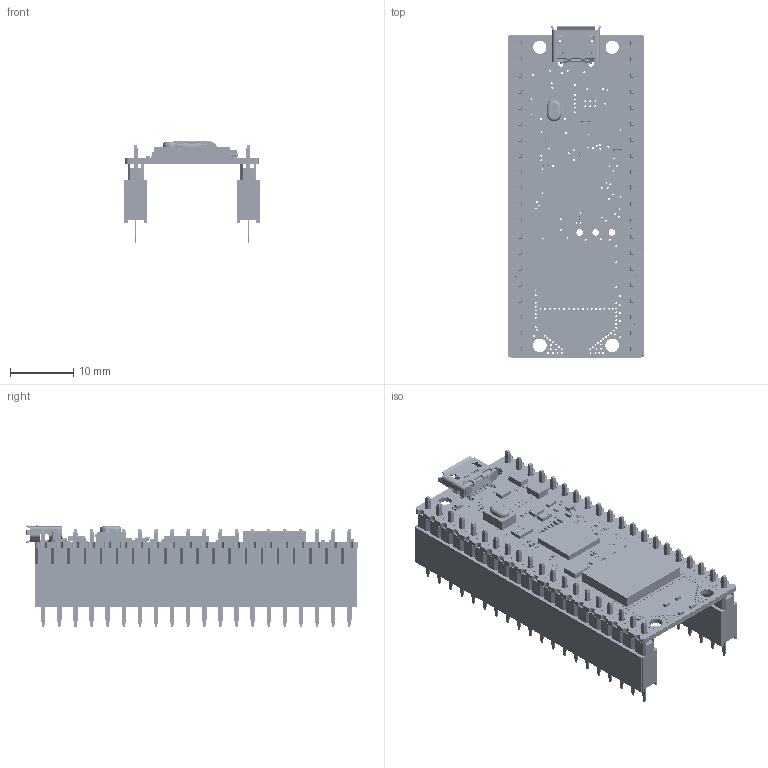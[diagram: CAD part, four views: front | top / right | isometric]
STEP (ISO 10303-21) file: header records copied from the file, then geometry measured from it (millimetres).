
FILE_DESCRIPTION(/* description */ (''),/* implementation_level */ '2;1');
FILE_NAME(/* name */ 'C:/Users/barry/OneDrive - K-Space Associates, Inc/Documents/uPython/Raspberry Pi Pico/RPi Pico W w_headers.step',/* time_stamp */ '2022-07-07T18:27:11-04:00',/* author */ (''),/* organization */ (''),/* preprocessor_version */ 'ST-DEVELOPER v19',/* originating_system */ 'Autodesk Translation Framework v11.7.0.108',/* authorisation */ '');
FILE_SCHEMA (('AUTOMOTIVE_DESIGN { 1 0 10303 214 3 1 1 }'));
Products named in the file (86): PicoW; Shapes; Dielectric; Dielectric (1); Dielectric (2); Symbols; AVAGO_QSM; BOURNS_SRN2512; CAPC0603; CAPC0603 (1); CAPC0603 (2); CAPC0603 (3); CAPC1005; CAPC1005 (1); CAPC1005 (2); CAPC1005 (3); CAPC1005 (4); CAPC1005 (5); CAPC1005 (6); CAPC1005 (7); CAPC1005 (8); CAPC1005 (9); CAPC1005X55N; CAPC1005X55N (1); CAPC1005X55N (2); CAPC1608X90N; CAPC1608X90N (1); CAPC2012; CAPC2012 (1); CAPC2012 (2); FCI_10103594-0001LF; M0603_PICO; M0603_PICO (1); M0603_PICO (2); M0603_PICO (3); M0603_PICO (4); M0603_PICO (5); M0603_PICO (6); M0603_PICO (7); M0603_PICO (8)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
Assembly tree (118 placements, depth 3):
  PicoW
    Shapes
      Dielectric
      Dielectric (1)
      Dielectric (2)
    Symbols
      AVAGO_QSM
      BOURNS_SRN2512
      CAPC0603
      CAPC0603 (1)
      CAPC0603 (2)
      CAPC0603 (3)
      CAPC1005
      CAPC1005 (1)
      CAPC1005 (2)
      CAPC1005 (3)
      CAPC1005 (4)
      CAPC1005 (5)
      CAPC1005 (6)
      CAPC1005 (7)
      CAPC1005 (8)
      CAPC1005 (9)
      CAPC1005X55N
      CAPC1005X55N (1)
      CAPC1005X55N (2)
      CAPC1608X90N
      CAPC1608X90N (1)
      CAPC2012
      CAPC2012 (1)
      CAPC2012 (2)
      FCI_10103594-0001LF
      M0603_PICO
      M0603_PICO (1)
      M0603_PICO (2)
      M0603_PICO (3)
      M0603_PICO (4)
      M0603_PICO (5)
      M0603_PICO (6)
      M0603_PICO (7)
      M0603_PICO (8)
      M0603_PICO (9)
      M0603_PICO (10)
      M0603_PICO (11)
      M0603_PICO (12)
      M0603_PICO (13)
      M0603_PICO (14)
      M0603_PICO (15)
      M0603_PICO (16)
      RESC0603
      RESC0603 (1)
      RESC0603 (2)
      RESC0603 (3)
      RESC1005
      RESC1608
      RF0603
      RF0603 (1)
      RF0603 (2)
      RF0603 (3)
      RF0603 (4)
      RF_SHIELD_PICOW
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Bounding box: 21.34 x 52.35 x 16.11 mm (x, y, z)
Volume: 4030.8 mm3; surface area: 12639.7 mm2
Topology: 158 solids, 158 shells, 7532 faces, 19228 edges, 11743 vertices
Faces by surface type: plane 4207, cylinder 2542, sphere 510, bspline 263, torus 8, cone 2
Full cylindrical faces by diameter (mm): 0.276 x1, 0.3 x967, 1.05 x129, 2.1 x6, 2.15 x6
Entity records: 219355 total; most frequent: CARTESIAN_POINT 48713, DIRECTION 34172, ORIENTED_EDGE 33084, EDGE_CURVE 16542, AXIS2_PLACEMENT_3D 11632, LINE 10908, VECTOR 10908, VERTEX_POINT 10391
